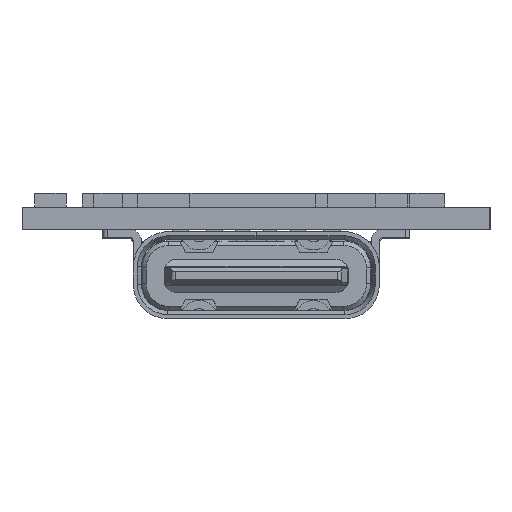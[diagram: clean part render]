
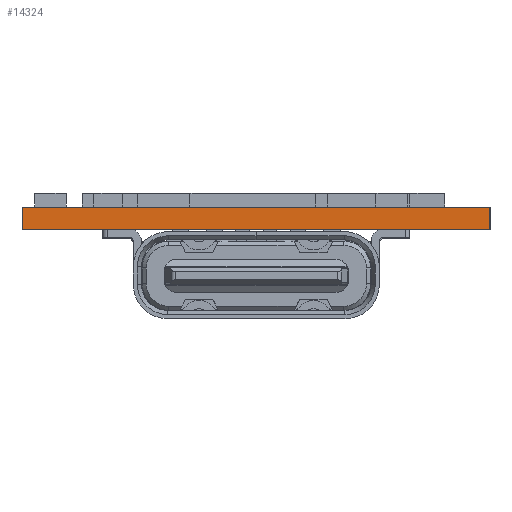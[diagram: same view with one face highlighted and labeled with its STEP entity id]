
A CAD part, left-side view. The second image highlights one B-rep face of the part: STEP entity #14324.
In plain terms, the highlighted planar face has unit normal (-1, 0, 0).
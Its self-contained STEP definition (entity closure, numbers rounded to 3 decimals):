
#876 = VECTOR ( 'NONE', #21878, 1000. ) ;
#1319 = ORIENTED_EDGE ( 'NONE', *, *, #6526, .F. ) ;
#3908 = DIRECTION ( 'NONE',  ( 0., 1., 0. ) ) ;
#5746 = CARTESIAN_POINT ( 'NONE',  ( -13.75, -8.5, 0. ) ) ;
#6231 = VERTEX_POINT ( 'NONE', #25945 ) ;
#6310 = EDGE_CURVE ( 'NONE', #7167, #6231, #26736, .T. ) ;
#6526 = EDGE_CURVE ( 'NONE', #36077, #8011, #10825, .T. ) ;
#7167 = VERTEX_POINT ( 'NONE', #35776 ) ;
#7610 = CARTESIAN_POINT ( 'NONE',  ( -13.75, -8.5, 0. ) ) ;
#8011 = VERTEX_POINT ( 'NONE', #5746 ) ;
#8277 = CARTESIAN_POINT ( 'NONE',  ( -13.75, 8.5, 0. ) ) ;
#9286 = PLANE ( 'NONE',  #28766 ) ;
#10103 = CARTESIAN_POINT ( 'NONE',  ( -13.75, -8.5, 0.8 ) ) ;
#10825 = LINE ( 'NONE', #7610, #34648 ) ;
#11586 = EDGE_LOOP ( 'NONE', ( #28784, #14079, #1319, #27328 ) ) ;
#13864 = EDGE_CURVE ( 'NONE', #8011, #7167, #24766, .T. ) ;
#14079 = ORIENTED_EDGE ( 'NONE', *, *, #13864, .F. ) ;
#14324 = ADVANCED_FACE ( 'NONE', ( #27937 ), #9286, .T. ) ;
#18373 = EDGE_CURVE ( 'NONE', #36077, #6231, #25553, .T. ) ;
#18910 = CARTESIAN_POINT ( 'NONE',  ( -13.75, 0., 0. ) ) ;
#20475 = DIRECTION ( 'NONE',  ( 0., 0., 1. ) ) ;
#21878 = DIRECTION ( 'NONE',  ( 0., 1., 0. ) ) ;
#24766 = LINE ( 'NONE', #18910, #27434 ) ;
#25121 = CARTESIAN_POINT ( 'NONE',  ( -13.75, -8.5, 0. ) ) ;
#25553 = LINE ( 'NONE', #10103, #876 ) ;
#25945 = CARTESIAN_POINT ( 'NONE',  ( -13.75, 8.5, 0.8 ) ) ;
#26736 = LINE ( 'NONE', #8277, #33117 ) ;
#27328 = ORIENTED_EDGE ( 'NONE', *, *, #18373, .T. ) ;
#27434 = VECTOR ( 'NONE', #3908, 1000. ) ;
#27937 = FACE_OUTER_BOUND ( 'NONE', #11586, .T. ) ;
#28766 = AXIS2_PLACEMENT_3D ( 'NONE', #25121, #36780, #37381 ) ;
#28784 = ORIENTED_EDGE ( 'NONE', *, *, #6310, .F. ) ;
#32552 = DIRECTION ( 'NONE',  ( 0., 0., -1. ) ) ;
#33117 = VECTOR ( 'NONE', #20475, 1000. ) ;
#34648 = VECTOR ( 'NONE', #32552, 1000. ) ;
#34682 = CARTESIAN_POINT ( 'NONE',  ( -13.75, -8.5, 0.8 ) ) ;
#35776 = CARTESIAN_POINT ( 'NONE',  ( -13.75, 8.5, 0. ) ) ;
#36077 = VERTEX_POINT ( 'NONE', #34682 ) ;
#36780 = DIRECTION ( 'NONE',  ( -1., 0., 0. ) ) ;
#37381 = DIRECTION ( 'NONE',  ( 0., 0., 1. ) ) ;
